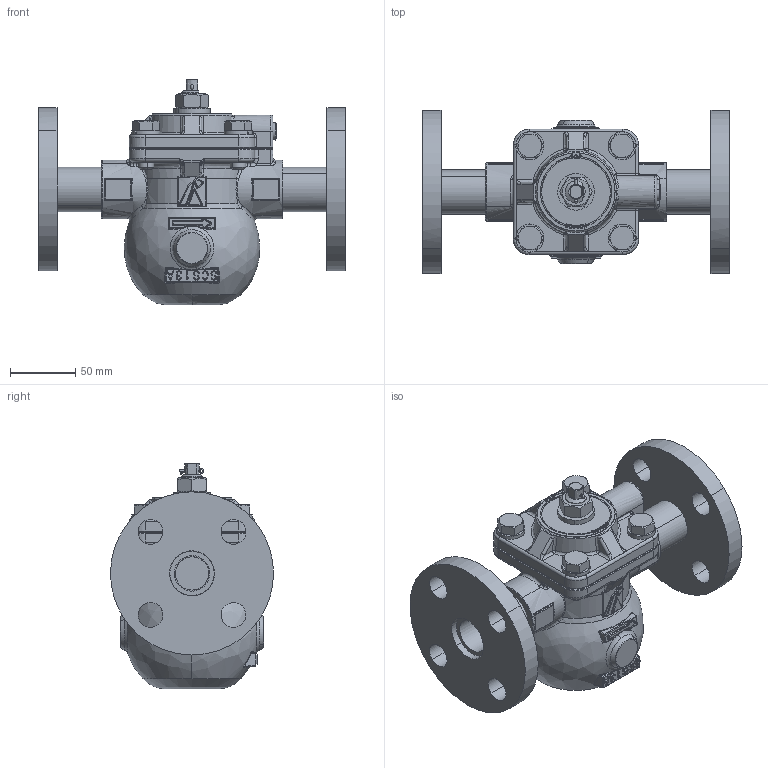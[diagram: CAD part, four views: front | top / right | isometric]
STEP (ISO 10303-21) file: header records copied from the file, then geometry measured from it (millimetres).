
FILE_DESCRIPTION((''),'2;1');
FILE_NAME('','2020-10-13T11:36:15',(''),(''),'','CADfix','');
FILE_SCHEMA(('AUTOMOTIVE_DESIGN { 1 0 10303 214 1 1 1 1 }'));
Length unit declared in the file: millimetre
Products named in the file (15): 　コック 埋め; ふた 埋め; 本体 25A SW 埋め; SOP 10K 25A; CP_SUS＿'_SUS304TP 25AxSch40x52.6_5126; CP_'_JIS B 1180 呼び径六角ボルト'_17166; CP_'_JIS B 1180 呼び径六角ボルト'_17168; SSLW12; テーパプラグMSWTS2; 3D　TSF-10　割りピン; 3D　TSF-10　銘板文字; 3D　TSF-10　六角ナット; 3D　TSF-10　銘板; 3D　TSF-10　カラー; TSF-10SF JIS10K 25A_38
Assembly tree (21 placements, depth 2):
  TSF-10SF JIS10K 25A_38
    　コック 埋め
    ふた 埋め
    本体 25A SW 埋め
    SOP 10K 25A  x2
    CP_SUS＿'_SUS304TP 25AxSch40x52.6_5126  x2
    CP_'_JIS B 1180 呼び径六角ボルト'_17166  x3
    CP_'_JIS B 1180 呼び径六角ボルト'_17168
    SSLW12  x4
    テーパプラグMSWTS2
    3D　TSF-10　割りピン
    3D　TSF-10　銘板文字
    3D　TSF-10　六角ナット
    3D　TSF-10　銘板
    3D　TSF-10　カラー
Bounding box: 235 x 125 x 173 mm (x, y, z)
Volume: 1369096.8 mm3; surface area: 201715.7 mm2
Topology: 21 solids, 21 shells, 1623 faces, 4524 edges, 2928 vertices
Faces by surface type: bspline 1623
Entity records: 75687 total; most frequent: CARTESIAN_POINT 45663, ORIENTED_EDGE 8358, STYLED_ITEM 5038, EDGE_CURVE 4179, VERTEX_POINT 2678, B_SPLINE_CURVE_WITH_KNOTS 1990, QUASI_UNIFORM_CURVE 1864, EDGE_LOOP 1605
